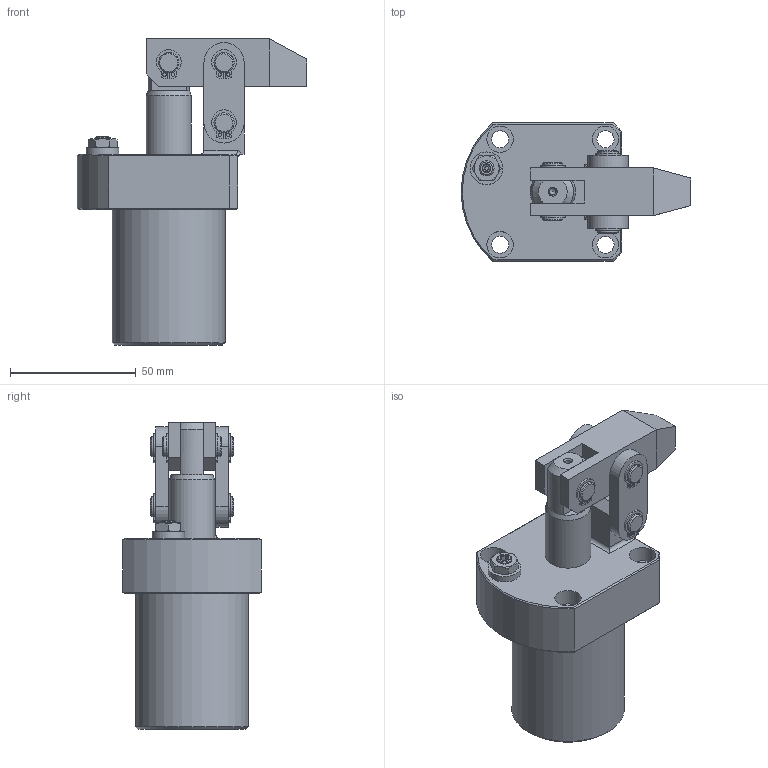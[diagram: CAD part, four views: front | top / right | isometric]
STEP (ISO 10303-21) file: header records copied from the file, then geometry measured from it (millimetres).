
FILE_DESCRIPTION(/* description */ ('Unknown'),/* implementation_level */ '2;1');
FILE_NAME(/* name */ 'HLC-FCM25-A',/* time_stamp */ '2022-11-23T03:54:09+08:00',/* author */ ('Unknown'),/* organization */ ('Unknown'),/* preprocessor_version */ 'ST-DEVELOPER v16.7',/* originating_system */ 'DEX',/* authorisation */ $);
FILE_SCHEMA (('AUTOMOTIVE_DESIGN {1 0 10303 214 3 1 1}'));
Length unit declared in the file: millimetre
Products named in the file (8): HLC-FCM25-A; HLC-FCM25-CYLINDER; HLC-2502-AXLE CENTRE; HLC-25-A; HLC-FCM25-ｹﾔ; HLC-FCM25-PINµu; HLC-FCM25-PINªø; HLC-FCM25-C扣
Assembly tree (14 placements, depth 2):
  HLC-FCM25-A
    HLC-FCM25-CYLINDER
    HLC-2502-AXLE CENTRE
    HLC-25-A
    HLC-FCM25-ｹﾔ  x2
    HLC-FCM25-PINµu
    HLC-FCM25-PINªø  x2
    HLC-FCM25-C扣  x6
Bounding box: 91.5 x 55 x 122 mm (x, y, z)
Volume: 181526.3 mm3; surface area: 45995.1 mm2
Topology: 14 solids, 14 shells, 298 faces, 693 edges, 454 vertices
Faces by surface type: plane 128, cylinder 125, cone 31, bspline 12, torus 2
Full cylindrical faces by diameter (mm): 1.4 x12, 2.5 x2, 2.6 x1, 4.1 x2, 6 x1, 6.8 x4, 7.5 x6, 8 x18, 9 x2, 10.5 x4, 13 x1, 18 x2, 24.6 x1, 25 x1, 45 x1
Entity records: 5509 total; most frequent: CARTESIAN_POINT 1197, DIRECTION 850, ORIENTED_EDGE 728, EDGE_CURVE 364, AXIS2_PLACEMENT_3D 356, FACE_BOUND 309, EDGE_LOOP 308, VERTEX_POINT 267
